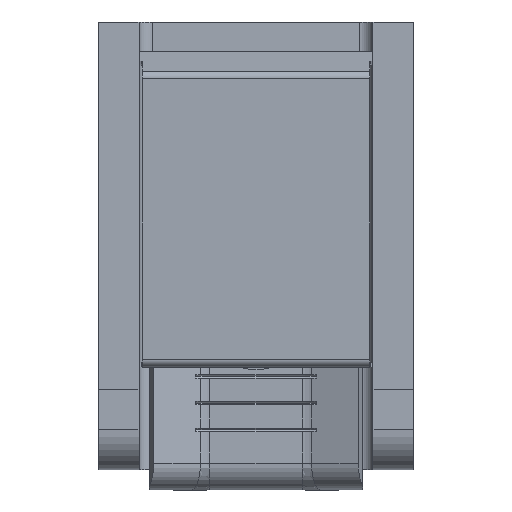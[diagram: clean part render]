
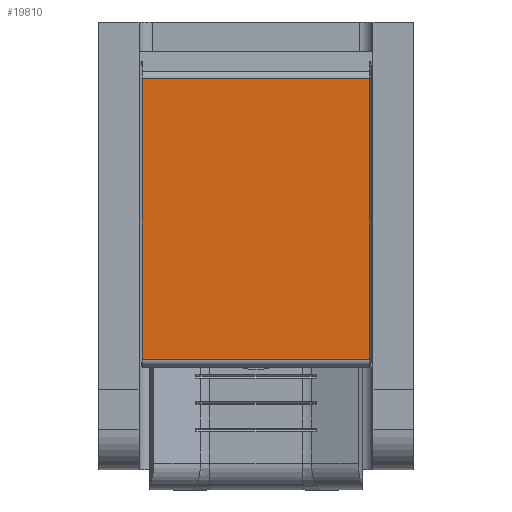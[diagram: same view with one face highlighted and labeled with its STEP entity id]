
A CAD part, front view. The second image highlights one B-rep face of the part: STEP entity #19810.
In plain terms, the highlighted planar face has unit normal (0, -1, -0.015).
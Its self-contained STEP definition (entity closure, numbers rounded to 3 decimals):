
#1269 = ORIENTED_EDGE ( 'NONE', *, *, #7286, .T. ) ;
#1786 = LINE ( 'NONE', #11261, #9517 ) ;
#1992 = DIRECTION ( 'NONE',  ( 1., 0., 0. ) ) ;
#2106 = DIRECTION ( 'NONE',  ( 0., -0.015, 1. ) ) ;
#2735 = FACE_OUTER_BOUND ( 'NONE', #19217, .T. ) ;
#2820 = CARTESIAN_POINT ( 'NONE',  ( 9.148, 2.833, -3.476 ) ) ;
#3084 = EDGE_CURVE ( 'NONE', #7059, #13166, #6417, .T. ) ;
#3138 = DIRECTION ( 'NONE',  ( 1., 0., 0. ) ) ;
#3428 = EDGE_CURVE ( 'NONE', #7059, #15340, #13176, .T. ) ;
#3639 = CARTESIAN_POINT ( 'NONE',  ( -7.852, 2.833, -3.476 ) ) ;
#4924 = VECTOR ( 'NONE', #2106, 1000. ) ;
#4931 = AXIS2_PLACEMENT_3D ( 'NONE', #9235, #12318, #3138 ) ;
#5495 = ORIENTED_EDGE ( 'NONE', *, *, #3428, .T. ) ;
#6417 = LINE ( 'NONE', #13368, #14426 ) ;
#7059 = VERTEX_POINT ( 'NONE', #2820 ) ;
#7286 = EDGE_CURVE ( 'NONE', #7310, #13166, #8970, .T. ) ;
#7310 = VERTEX_POINT ( 'NONE', #17302 ) ;
#7465 = PLANE ( 'NONE',  #4931 ) ;
#7500 = DIRECTION ( 'NONE',  ( -1., 0., 0. ) ) ;
#7761 = VECTOR ( 'NONE', #8085, 1000. ) ;
#8085 = DIRECTION ( 'NONE',  ( 0., 0.015, -1. ) ) ;
#8970 = LINE ( 'NONE', #18932, #7761 ) ;
#9235 = CARTESIAN_POINT ( 'NONE',  ( 12.148, 2.525, 17.722 ) ) ;
#9517 = VECTOR ( 'NONE', #1992, 1000. ) ;
#11120 = CARTESIAN_POINT ( 'NONE',  ( 9.148, 2.528, 17.511 ) ) ;
#11261 = CARTESIAN_POINT ( 'NONE',  ( 12.148, 2.528, 17.511 ) ) ;
#12318 = DIRECTION ( 'NONE',  ( 0., 1., 0.015 ) ) ;
#13166 = VERTEX_POINT ( 'NONE', #3639 ) ;
#13176 = LINE ( 'NONE', #19103, #4924 ) ;
#13368 = CARTESIAN_POINT ( 'NONE',  ( 12.148, 2.833, -3.476 ) ) ;
#14426 = VECTOR ( 'NONE', #7500, 1000. ) ;
#14577 = EDGE_CURVE ( 'NONE', #7310, #15340, #1786, .T. ) ;
#15340 = VERTEX_POINT ( 'NONE', #11120 ) ;
#16830 = ORIENTED_EDGE ( 'NONE', *, *, #3084, .F. ) ;
#17302 = CARTESIAN_POINT ( 'NONE',  ( -7.852, 2.528, 17.511 ) ) ;
#18932 = CARTESIAN_POINT ( 'NONE',  ( -7.852, 2.525, 17.722 ) ) ;
#18996 = ORIENTED_EDGE ( 'NONE', *, *, #14577, .F. ) ;
#19103 = CARTESIAN_POINT ( 'NONE',  ( 9.148, 2.525, 17.722 ) ) ;
#19217 = EDGE_LOOP ( 'NONE', ( #18996, #1269, #16830, #5495 ) ) ;
#19810 = ADVANCED_FACE ( 'NONE', ( #2735 ), #7465, .F. ) ;
